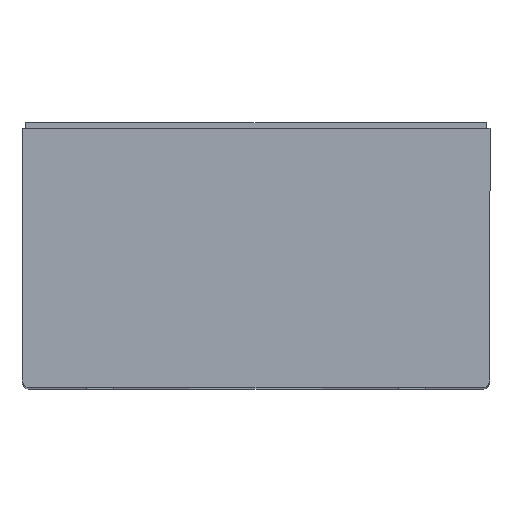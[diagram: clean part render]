
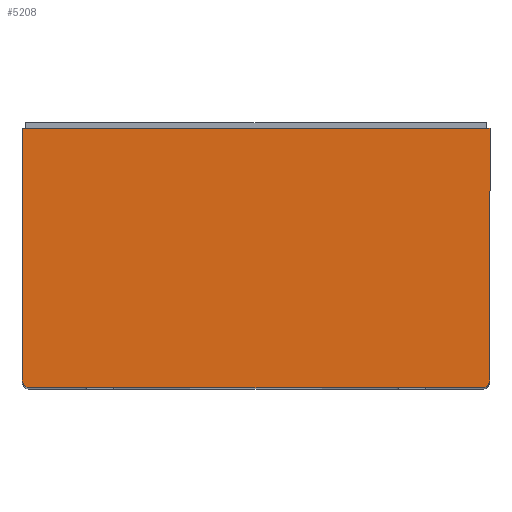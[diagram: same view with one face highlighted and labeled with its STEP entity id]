
A CAD part, top view. The second image highlights one B-rep face of the part: STEP entity #5208.
In plain terms, the highlighted planar face has unit normal (0, 0, 1) as drawn and (0, 0, -1) by its records, which use the part's own axes.
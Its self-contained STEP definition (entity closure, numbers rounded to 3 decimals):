
#5111=CARTESIAN_POINT('',(0.,2.,0.0));
#5112=VERTEX_POINT('',#5111);
#5119=CARTESIAN_POINT('',(2.,0.0,0.0));
#5120=VERTEX_POINT('',#5119);
#5121=CARTESIAN_POINT('',(2.,2.0,0.0));
#5122=DIRECTION('',(0.0,0.0,1.0));
#5123=DIRECTION('',(-0.707,-0.707,0.0));
#5124=AXIS2_PLACEMENT_3D('',#5121,#5122,#5123);
#5125=CIRCLE('',#5124,2.0);
#5126=EDGE_CURVE('',#5112,#5120,#5125,.T.);
#5143=CARTESIAN_POINT('',(118.0,0.0,0.0));
#5144=VERTEX_POINT('',#5143);
#5145=CARTESIAN_POINT('',(2.,0.0,0.0));
#5146=DIRECTION('',(1.0,0.0,0.0));
#5147=VECTOR('',#5146,116.);
#5148=LINE('',#5145,#5147);
#5149=EDGE_CURVE('',#5120,#5144,#5148,.T.);
#5168=CARTESIAN_POINT('',(60.0,33.25,0.0));
#5169=DIRECTION('',(0.0,0.0,1.0));
#5170=DIRECTION('',(1.0,0.0,0.0));
#5171=AXIS2_PLACEMENT_3D('',#5168,#5169,#5170);
#5172=PLANE('',#5171);
#5173=ORIENTED_EDGE('',*,*,#5126,.F.);
#5174=CARTESIAN_POINT('',(0.,66.5,0.0));
#5175=VERTEX_POINT('',#5174);
#5176=CARTESIAN_POINT('',(0.,66.5,0.0));
#5177=DIRECTION('',(0.0,-1.0,0.0));
#5178=VECTOR('',#5177,64.5);
#5179=LINE('',#5176,#5178);
#5180=EDGE_CURVE('',#5175,#5112,#5179,.T.);
#5181=ORIENTED_EDGE('',*,*,#5180,.F.);
#5182=CARTESIAN_POINT('',(120.0,66.5,0.0));
#5183=VERTEX_POINT('',#5182);
#5184=CARTESIAN_POINT('',(120.0,66.5,0.0));
#5185=DIRECTION('',(-1.0,0.0,0.0));
#5186=VECTOR('',#5185,120.);
#5187=LINE('',#5184,#5186);
#5188=EDGE_CURVE('',#5183,#5175,#5187,.T.);
#5189=ORIENTED_EDGE('',*,*,#5188,.F.);
#5190=CARTESIAN_POINT('',(120.0,2.,0.0));
#5191=VERTEX_POINT('',#5190);
#5192=CARTESIAN_POINT('',(120.0,2.,0.0));
#5193=DIRECTION('',(0.0,1.0,0.0));
#5194=VECTOR('',#5193,64.5);
#5195=LINE('',#5192,#5194);
#5196=EDGE_CURVE('',#5191,#5183,#5195,.T.);
#5197=ORIENTED_EDGE('',*,*,#5196,.F.);
#5198=CARTESIAN_POINT('',(118.0,2.,0.0));
#5199=DIRECTION('',(0.0,0.0,1.0));
#5200=DIRECTION('',(0.707,-0.707,0.0));
#5201=AXIS2_PLACEMENT_3D('',#5198,#5199,#5200);
#5202=CIRCLE('',#5201,2.0);
#5203=EDGE_CURVE('',#5144,#5191,#5202,.T.);
#5204=ORIENTED_EDGE('',*,*,#5203,.F.);
#5205=ORIENTED_EDGE('',*,*,#5149,.F.);
#5206=EDGE_LOOP('',(#5173,#5181,#5189,#5197,#5204,#5205));
#5207=FACE_OUTER_BOUND('',#5206,.T.);
#5208=ADVANCED_FACE('',(#5207),#5172,.F.);
